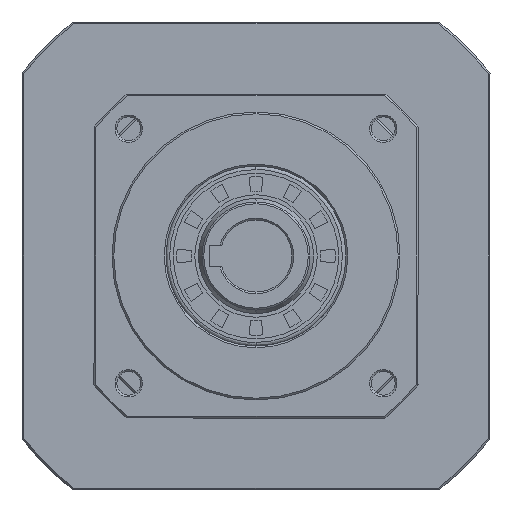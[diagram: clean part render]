
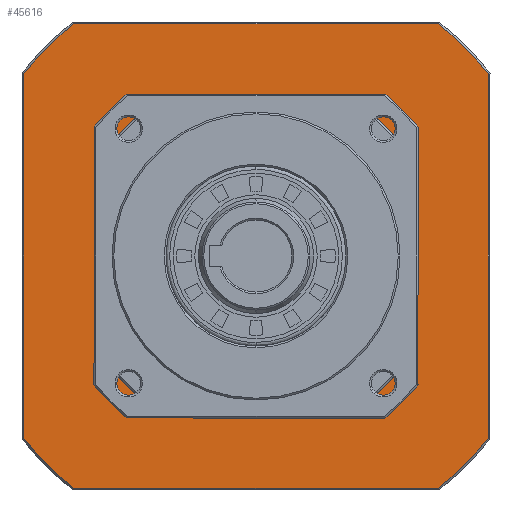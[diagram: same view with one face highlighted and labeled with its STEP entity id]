
A CAD part, left-side view. The second image highlights one B-rep face of the part: STEP entity #45616.
In plain terms, the highlighted planar face has unit normal (-1, 0, 0).
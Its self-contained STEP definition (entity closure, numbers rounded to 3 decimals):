
#529 = EDGE_CURVE ( 'NONE', #70349, #8939, #15821, .T. ) ;
#3859 = EDGE_CURVE ( 'NONE', #17721, #32083, #60100, .T. ) ;
#4170 = VECTOR ( 'NONE', #15819, 1000. ) ;
#4234 = EDGE_CURVE ( 'NONE', #70349, #42082, #26008, .T. ) ;
#6262 = VECTOR ( 'NONE', #83008, 1000. ) ;
#6461 = CARTESIAN_POINT ( 'NONE',  ( 88.5, 44.5, 23.875 ) ) ;
#6651 = CARTESIAN_POINT ( 'NONE',  ( 88.5, -23.875, -44.5 ) ) ;
#6657 = DIRECTION ( 'NONE',  ( 0., 0., 1. ) ) ;
#8090 = DIRECTION ( 'NONE',  ( 0., 0., 1. ) ) ;
#8939 = VERTEX_POINT ( 'NONE', #34264 ) ;
#9871 = EDGE_CURVE ( 'NONE', #54482, #81735, #20538, .T. ) ;
#10013 = LINE ( 'NONE', #81176, #81229 ) ;
#10036 = DIRECTION ( 'NONE',  ( 0., 1., 0. ) ) ;
#10575 = AXIS2_PLACEMENT_3D ( 'NONE', #13486, #20335, #74680 ) ;
#12617 = FACE_BOUND ( 'NONE', #73608, .T. ) ;
#12985 = CARTESIAN_POINT ( 'NONE',  ( 88.5, 0., 0. ) ) ;
#13013 = CARTESIAN_POINT ( 'NONE',  ( 88.5, 44.5, 0. ) ) ;
#13486 = CARTESIAN_POINT ( 'NONE',  ( 88.5, 0., 0. ) ) ;
#14319 = CARTESIAN_POINT ( 'NONE',  ( 88.5, 0., 0. ) ) ;
#14646 = DIRECTION ( 'NONE',  ( -1., 0., 0. ) ) ;
#15065 = EDGE_CURVE ( 'NONE', #19378, #37721, #32660, .T. ) ;
#15819 = DIRECTION ( 'NONE',  ( 0., 1., 0. ) ) ;
#15821 = LINE ( 'NONE', #56813, #4170 ) ;
#15923 = DIRECTION ( 'NONE',  ( 0., -1., 0. ) ) ;
#16887 = EDGE_CURVE ( 'NONE', #51421, #66522, #47906, .T. ) ;
#17540 = ORIENTED_EDGE ( 'NONE', *, *, #78040, .T. ) ;
#17721 = VERTEX_POINT ( 'NONE', #37374 ) ;
#18273 = AXIS2_PLACEMENT_3D ( 'NONE', #40529, #14646, #34267 ) ;
#19378 = VERTEX_POINT ( 'NONE', #37276 ) ;
#20001 = EDGE_CURVE ( 'NONE', #37239, #54482, #50144, .T. ) ;
#20335 = DIRECTION ( 'NONE',  ( -1., 0., 0. ) ) ;
#20352 = DIRECTION ( 'NONE',  ( 1., 0., 0. ) ) ;
#20538 = LINE ( 'NONE', #50723, #60901 ) ;
#21821 = DIRECTION ( 'NONE',  ( 1., 0., 0. ) ) ;
#22160 = DIRECTION ( 'NONE',  ( 0., 0., -1. ) ) ;
#22778 = CARTESIAN_POINT ( 'NONE',  ( 88.5, 0., 0. ) ) ;
#23052 = DIRECTION ( 'NONE',  ( 0., 0., -1. ) ) ;
#26008 = CIRCLE ( 'NONE', #40326, 50.5 ) ;
#26817 = DIRECTION ( 'NONE',  ( 0., -1., 0. ) ) ;
#27856 = VECTOR ( 'NONE', #59643, 1000. ) ;
#28902 = AXIS2_PLACEMENT_3D ( 'NONE', #22778, #50114, #63754 ) ;
#29756 = VERTEX_POINT ( 'NONE', #6651 ) ;
#30414 = CARTESIAN_POINT ( 'NONE',  ( 88.5, -50.633, -64.5 ) ) ;
#31805 = LINE ( 'NONE', #62505, #6262 ) ;
#32083 = VERTEX_POINT ( 'NONE', #37638 ) ;
#32363 = CARTESIAN_POINT ( 'NONE',  ( 88.5, -64.5, -50.633 ) ) ;
#32423 = ORIENTED_EDGE ( 'NONE', *, *, #52666, .F. ) ;
#32660 = CIRCLE ( 'NONE', #52599, 82. ) ;
#33132 = LINE ( 'NONE', #13013, #27856 ) ;
#33188 = DIRECTION ( 'NONE',  ( -1., 0., 0. ) ) ;
#34264 = CARTESIAN_POINT ( 'NONE',  ( 88.5, 23.875, 44.5 ) ) ;
#34267 = DIRECTION ( 'NONE',  ( 0., 0., -1. ) ) ;
#35530 = CARTESIAN_POINT ( 'NONE',  ( 88.5, -23.875, 44.5 ) ) ;
#36732 = ORIENTED_EDGE ( 'NONE', *, *, #55289, .F. ) ;
#37239 = VERTEX_POINT ( 'NONE', #77231 ) ;
#37276 = CARTESIAN_POINT ( 'NONE',  ( 88.5, 64.5, -50.633 ) ) ;
#37374 = CARTESIAN_POINT ( 'NONE',  ( 88.5, 23.875, -44.5 ) ) ;
#37638 = CARTESIAN_POINT ( 'NONE',  ( 88.5, 44.5, -23.875 ) ) ;
#37721 = VERTEX_POINT ( 'NONE', #50116 ) ;
#38260 = ORIENTED_EDGE ( 'NONE', *, *, #4234, .T. ) ;
#38660 = VERTEX_POINT ( 'NONE', #6461 ) ;
#39753 = DIRECTION ( 'NONE',  ( 0., 0., -1. ) ) ;
#40326 = AXIS2_PLACEMENT_3D ( 'NONE', #14319, #75817, #8090 ) ;
#40529 = CARTESIAN_POINT ( 'NONE',  ( 88.5, 0., 0. ) ) ;
#42082 = VERTEX_POINT ( 'NONE', #52805 ) ;
#42597 = DIRECTION ( 'NONE',  ( 0., 0., -1. ) ) ;
#42680 = DIRECTION ( 'NONE',  ( -1., 0., 0. ) ) ;
#42934 = ORIENTED_EDGE ( 'NONE', *, *, #16887, .T. ) ;
#44777 = VECTOR ( 'NONE', #15923, 1000. ) ;
#45466 = AXIS2_PLACEMENT_3D ( 'NONE', #69676, #42680, #23052 ) ;
#45616 = ADVANCED_FACE ( 'NONE', ( #12617, #83855 ), #62462, .F. ) ;
#46584 = EDGE_CURVE ( 'NONE', #52488, #42082, #66720, .T. ) ;
#47277 = CARTESIAN_POINT ( 'NONE',  ( 88.5, -50.633, 64.5 ) ) ;
#47673 = CARTESIAN_POINT ( 'NONE',  ( 88.5, 0., 0. ) ) ;
#47906 = CIRCLE ( 'NONE', #10575, 82. ) ;
#48336 = EDGE_CURVE ( 'NONE', #77705, #19378, #71670, .T. ) ;
#48651 = EDGE_CURVE ( 'NONE', #37721, #51421, #10013, .T. ) ;
#48838 = CARTESIAN_POINT ( 'NONE',  ( 88.5, -64.5, 64.5 ) ) ;
#50114 = DIRECTION ( 'NONE',  ( -1., 0., 0. ) ) ;
#50116 = CARTESIAN_POINT ( 'NONE',  ( 88.5, 50.633, -64.5 ) ) ;
#50144 = CIRCLE ( 'NONE', #45466, 82. ) ;
#50723 = CARTESIAN_POINT ( 'NONE',  ( 88.5, 0., 64.5 ) ) ;
#51085 = CARTESIAN_POINT ( 'NONE',  ( 88.5, 50.633, 64.5 ) ) ;
#51421 = VERTEX_POINT ( 'NONE', #30414 ) ;
#52488 = VERTEX_POINT ( 'NONE', #58581 ) ;
#52599 = AXIS2_PLACEMENT_3D ( 'NONE', #12985, #33188, #39753 ) ;
#52666 = EDGE_CURVE ( 'NONE', #29756, #52488, #81365, .T. ) ;
#52805 = CARTESIAN_POINT ( 'NONE',  ( 88.5, -44.5, 23.875 ) ) ;
#53147 = ORIENTED_EDGE ( 'NONE', *, *, #15065, .T. ) ;
#53207 = EDGE_LOOP ( 'NONE', ( #53147, #86988, #42934, #63665, #64232, #66447, #17540, #70422 ) ) ;
#53283 = CIRCLE ( 'NONE', #18273, 82. ) ;
#54482 = VERTEX_POINT ( 'NONE', #47277 ) ;
#55289 = EDGE_CURVE ( 'NONE', #38660, #32083, #33132, .T. ) ;
#56322 = CARTESIAN_POINT ( 'NONE',  ( 88.5, 0., -44.5 ) ) ;
#56610 = CARTESIAN_POINT ( 'NONE',  ( 88.5, 64.5, 50.633 ) ) ;
#56813 = CARTESIAN_POINT ( 'NONE',  ( 88.5, 0., 44.5 ) ) ;
#57178 = CARTESIAN_POINT ( 'NONE',  ( 88.5, 64.5, 0. ) ) ;
#57899 = ORIENTED_EDGE ( 'NONE', *, *, #62922, .T. ) ;
#58581 = CARTESIAN_POINT ( 'NONE',  ( 88.5, -44.5, -23.875 ) ) ;
#58761 = ORIENTED_EDGE ( 'NONE', *, *, #529, .F. ) ;
#59643 = DIRECTION ( 'NONE',  ( 0., 0., -1. ) ) ;
#60100 = CIRCLE ( 'NONE', #77743, 50.5 ) ;
#60901 = VECTOR ( 'NONE', #10036, 1000. ) ;
#61008 = DIRECTION ( 'NONE',  ( 0., 0., 1. ) ) ;
#62462 = PLANE ( 'NONE',  #87204 ) ;
#62505 = CARTESIAN_POINT ( 'NONE',  ( 88.5, -64.5, 0. ) ) ;
#62922 = EDGE_CURVE ( 'NONE', #38660, #8939, #67194, .T. ) ;
#63665 = ORIENTED_EDGE ( 'NONE', *, *, #75254, .T. ) ;
#63754 = DIRECTION ( 'NONE',  ( 0., 0., 1. ) ) ;
#64232 = ORIENTED_EDGE ( 'NONE', *, *, #20001, .T. ) ;
#64360 = EDGE_CURVE ( 'NONE', #17721, #29756, #76634, .T. ) ;
#66447 = ORIENTED_EDGE ( 'NONE', *, *, #9871, .T. ) ;
#66522 = VERTEX_POINT ( 'NONE', #32363 ) ;
#66720 = LINE ( 'NONE', #80903, #76300 ) ;
#67194 = CIRCLE ( 'NONE', #73802, 50.5 ) ;
#69676 = CARTESIAN_POINT ( 'NONE',  ( 88.5, 0., 0. ) ) ;
#70349 = VERTEX_POINT ( 'NONE', #35530 ) ;
#70422 = ORIENTED_EDGE ( 'NONE', *, *, #48336, .T. ) ;
#71670 = LINE ( 'NONE', #57178, #87633 ) ;
#73387 = ORIENTED_EDGE ( 'NONE', *, *, #46584, .F. ) ;
#73608 = EDGE_LOOP ( 'NONE', ( #76416, #36732, #57899, #58761, #38260, #73387, #32423, #87808 ) ) ;
#73802 = AXIS2_PLACEMENT_3D ( 'NONE', #74466, #86653, #80128 ) ;
#74466 = CARTESIAN_POINT ( 'NONE',  ( 88.5, 0., 0. ) ) ;
#74680 = DIRECTION ( 'NONE',  ( 0., 0., -1. ) ) ;
#75254 = EDGE_CURVE ( 'NONE', #66522, #37239, #31805, .T. ) ;
#75817 = DIRECTION ( 'NONE',  ( 1., 0., 0. ) ) ;
#76300 = VECTOR ( 'NONE', #6657, 1000. ) ;
#76416 = ORIENTED_EDGE ( 'NONE', *, *, #3859, .T. ) ;
#76634 = LINE ( 'NONE', #56322, #44777 ) ;
#77231 = CARTESIAN_POINT ( 'NONE',  ( 88.5, -64.5, 50.633 ) ) ;
#77705 = VERTEX_POINT ( 'NONE', #56610 ) ;
#77743 = AXIS2_PLACEMENT_3D ( 'NONE', #47673, #20352, #61008 ) ;
#78040 = EDGE_CURVE ( 'NONE', #81735, #77705, #53283, .T. ) ;
#80128 = DIRECTION ( 'NONE',  ( 0., 0., 1. ) ) ;
#80903 = CARTESIAN_POINT ( 'NONE',  ( 88.5, -44.5, 0. ) ) ;
#81176 = CARTESIAN_POINT ( 'NONE',  ( 88.5, 0., -64.5 ) ) ;
#81229 = VECTOR ( 'NONE', #26817, 1000. ) ;
#81365 = CIRCLE ( 'NONE', #28902, 50.5 ) ;
#81735 = VERTEX_POINT ( 'NONE', #51085 ) ;
#83008 = DIRECTION ( 'NONE',  ( 0., 0., 1. ) ) ;
#83855 = FACE_OUTER_BOUND ( 'NONE', #53207, .T. ) ;
#86653 = DIRECTION ( 'NONE',  ( 1., 0., 0. ) ) ;
#86988 = ORIENTED_EDGE ( 'NONE', *, *, #48651, .T. ) ;
#87204 = AXIS2_PLACEMENT_3D ( 'NONE', #48838, #21821, #42597 ) ;
#87633 = VECTOR ( 'NONE', #22160, 1000. ) ;
#87808 = ORIENTED_EDGE ( 'NONE', *, *, #64360, .F. ) ;
